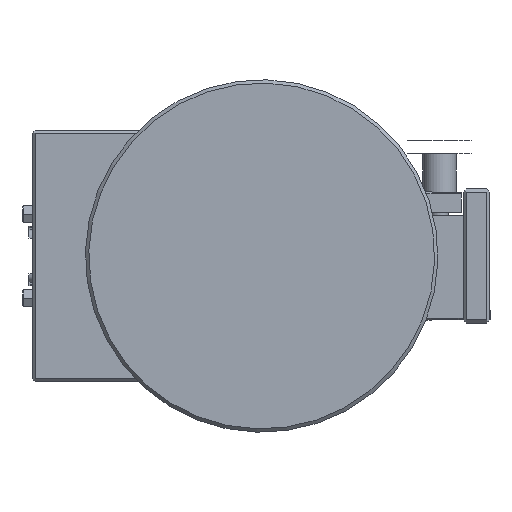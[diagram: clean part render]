
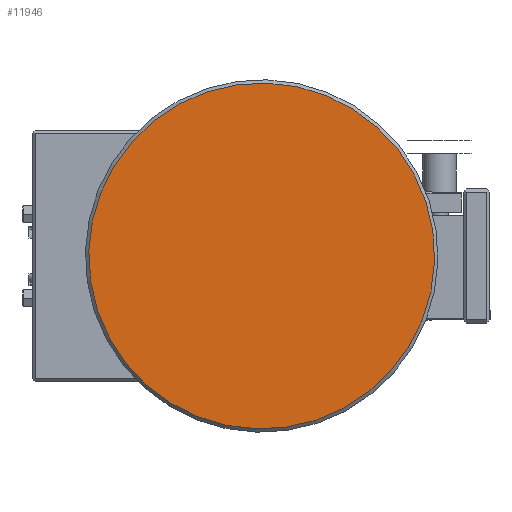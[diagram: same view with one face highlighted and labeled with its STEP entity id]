
A CAD part, left-side view. The second image highlights one B-rep face of the part: STEP entity #11946.
In plain terms, the highlighted planar face has unit normal (-1, 0, 0).
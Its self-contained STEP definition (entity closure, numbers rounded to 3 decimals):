
#11930=CARTESIAN_POINT('',(-62.606,4.058,0.755));
#11931=DIRECTION('',(-1.0,0.0,0.0));
#11932=DIRECTION('',(0.0,-0.029,1.));
#11933=AXIS2_PLACEMENT_3D('',#11930,#11931,#11932);
#11934=PLANE('',#11933);
#11935=CARTESIAN_POINT('',(-62.606,29.797,1.51));
#11936=VERTEX_POINT('',#11935);
#11937=CARTESIAN_POINT('',(-62.606,-21.681,0.));
#11938=DIRECTION('',(1.,0.,0.));
#11939=DIRECTION('',(0.,1.,0.029));
#11940=AXIS2_PLACEMENT_3D('',#11937,#11938,#11939);
#11941=CIRCLE('',#11940,51.5);
#11942=EDGE_CURVE('',#11936,#11936,#11941,.T.);
#11943=ORIENTED_EDGE('',*,*,#11942,.F.);
#11944=EDGE_LOOP('',(#11943));
#11945=FACE_OUTER_BOUND('',#11944,.T.);
#11946=ADVANCED_FACE('',(#11945),#11934,.T.);
